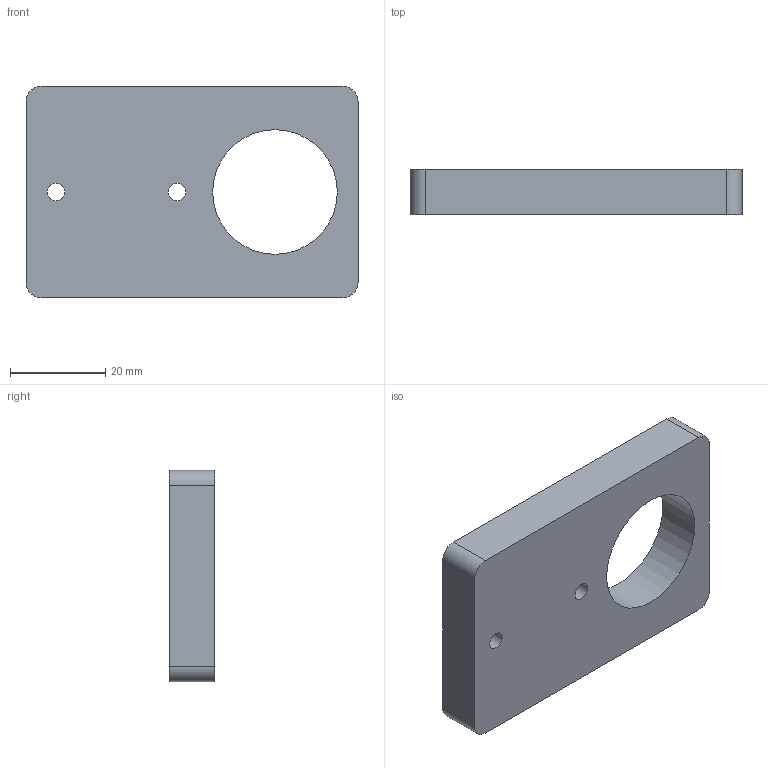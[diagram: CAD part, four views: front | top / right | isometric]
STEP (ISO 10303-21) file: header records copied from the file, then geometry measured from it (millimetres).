
FILE_DESCRIPTION( ( 'Unknown' ), '1' );
FILE_NAME( 'S:/A & P Tool/Start Button Swivel Mount/STP Files for Website/AFSB-630XS-30.stp', 'Unknown', ( 'Jorge Villegas' ), ( 'A&P' ), 'PSStep 14.0', 'Solid Edge', ' ' );
FILE_SCHEMA( ( 'AUTOMOTIVE_DESIGN { 1 0 10303 214 1 1 1 1 }' ) );
Length unit declared in the file: millimetre
Products named in the file (1): 1
Bounding box: 69.85 x 9.53 x 44.45 mm (x, y, z)
Volume: 24148.9 mm3; surface area: 8200.7 mm2
Topology: 1 solids, 1 shells, 13 faces, 36 edges, 25 vertices
Faces by surface type: cylinder 7, plane 6
Full cylindrical faces by diameter (mm): 3.68 x2, 26.211 x1
Entity records: 518 total; most frequent: DIRECTION 72, CARTESIAN_POINT 66, ORIENTED_EDGE 60, EDGE_CURVE 30, AXIS2_PLACEMENT_3D 28, EDGE_LOOP 22, VERTEX_POINT 22, FACE_OUTER_BOUND 16
